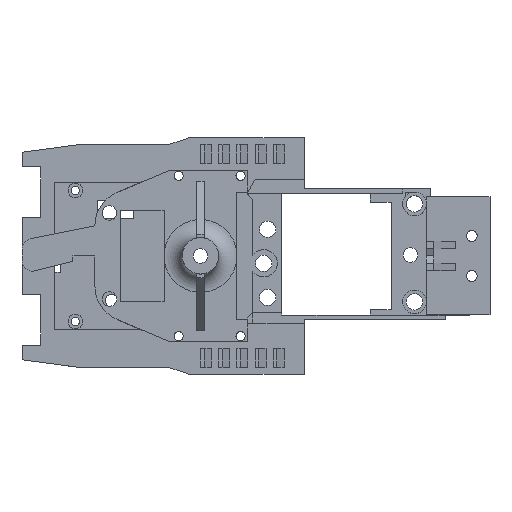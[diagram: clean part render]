
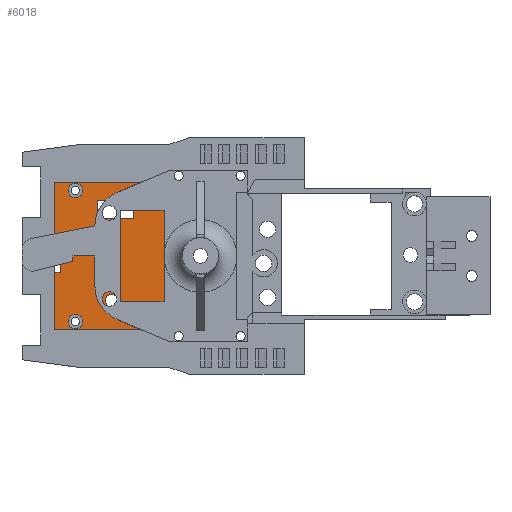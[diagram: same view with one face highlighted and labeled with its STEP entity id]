
A CAD part, top view. The second image highlights one B-rep face of the part: STEP entity #6018.
In plain terms, the highlighted planar face has unit normal (0, 0, 1).
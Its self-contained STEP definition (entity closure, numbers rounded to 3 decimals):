
#61=FACE_BOUND('',#839,.T.);
#62=FACE_BOUND('',#840,.T.);
#63=FACE_BOUND('',#841,.T.);
#64=FACE_BOUND('',#842,.T.);
#250=PLANE('',#6454);
#510=FACE_OUTER_BOUND('',#838,.T.);
#838=EDGE_LOOP('',(#4816,#4817,#4818,#4819,#4820,#4821,#4822,#4823,#4824,
#4825,#4826,#4827));
#839=EDGE_LOOP('',(#4828,#4829,#4830,#4831));
#840=EDGE_LOOP('',(#4832,#4833));
#841=EDGE_LOOP('',(#4834,#4835));
#842=EDGE_LOOP('',(#4836));
#1098=CIRCLE('',#6443,2.5);
#1099=CIRCLE('',#6446,2.5);
#1102=CIRCLE('',#6455,2.);
#1103=CIRCLE('',#6456,2.);
#1104=CIRCLE('',#6457,2.);
#1105=CIRCLE('',#6458,2.);
#1106=CIRCLE('',#6459,1.75);
#1595=LINE('',#9368,#2283);
#1596=LINE('',#9370,#2284);
#1597=LINE('',#9372,#2285);
#1598=LINE('',#9374,#2286);
#1599=LINE('',#9376,#2287);
#1600=LINE('',#9378,#2288);
#1601=LINE('',#9379,#2289);
#1602=LINE('',#9381,#2290);
#1603=LINE('',#9383,#2291);
#1604=LINE('',#9384,#2292);
#1605=LINE('',#9387,#2293);
#1606=LINE('',#9389,#2294);
#1607=LINE('',#9391,#2295);
#1608=LINE('',#9392,#2296);
#2283=VECTOR('',#7565,10.);
#2284=VECTOR('',#7566,10.);
#2285=VECTOR('',#7567,10.);
#2286=VECTOR('',#7568,10.);
#2287=VECTOR('',#7569,10.);
#2288=VECTOR('',#7570,10.);
#2289=VECTOR('',#7571,10.);
#2290=VECTOR('',#7572,10.);
#2291=VECTOR('',#7573,10.);
#2292=VECTOR('',#7574,10.);
#2293=VECTOR('',#7575,10.);
#2294=VECTOR('',#7576,10.);
#2295=VECTOR('',#7577,10.);
#2296=VECTOR('',#7578,10.);
#2917=VERTEX_POINT('',#9337);
#2918=VERTEX_POINT('',#9339);
#2919=VERTEX_POINT('',#9345);
#2920=VERTEX_POINT('',#9347);
#2925=VERTEX_POINT('',#9367);
#2926=VERTEX_POINT('',#9369);
#2927=VERTEX_POINT('',#9371);
#2928=VERTEX_POINT('',#9373);
#2929=VERTEX_POINT('',#9375);
#2930=VERTEX_POINT('',#9377);
#2931=VERTEX_POINT('',#9380);
#2932=VERTEX_POINT('',#9382);
#2933=VERTEX_POINT('',#9385);
#2934=VERTEX_POINT('',#9386);
#2935=VERTEX_POINT('',#9388);
#2936=VERTEX_POINT('',#9390);
#2937=VERTEX_POINT('',#9393);
#2938=VERTEX_POINT('',#9394);
#2939=VERTEX_POINT('',#9397);
#2940=VERTEX_POINT('',#9398);
#2941=VERTEX_POINT('',#9401);
#3624=EDGE_CURVE('',#2918,#2917,#1098,.T.);
#3628=EDGE_CURVE('',#2920,#2919,#1099,.T.);
#3638=EDGE_CURVE('',#2917,#2925,#1595,.T.);
#3639=EDGE_CURVE('',#2925,#2926,#1596,.T.);
#3640=EDGE_CURVE('',#2926,#2927,#1597,.T.);
#3641=EDGE_CURVE('',#2927,#2928,#1598,.T.);
#3642=EDGE_CURVE('',#2928,#2929,#1599,.T.);
#3643=EDGE_CURVE('',#2929,#2930,#1600,.T.);
#3644=EDGE_CURVE('',#2930,#2920,#1601,.T.);
#3645=EDGE_CURVE('',#2919,#2931,#1602,.T.);
#3646=EDGE_CURVE('',#2932,#2931,#1603,.T.);
#3647=EDGE_CURVE('',#2932,#2918,#1604,.T.);
#3648=EDGE_CURVE('',#2933,#2934,#1605,.T.);
#3649=EDGE_CURVE('',#2934,#2935,#1606,.T.);
#3650=EDGE_CURVE('',#2935,#2936,#1607,.T.);
#3651=EDGE_CURVE('',#2936,#2933,#1608,.T.);
#3652=EDGE_CURVE('',#2937,#2938,#1102,.T.);
#3653=EDGE_CURVE('',#2938,#2937,#1103,.T.);
#3654=EDGE_CURVE('',#2939,#2940,#1104,.T.);
#3655=EDGE_CURVE('',#2940,#2939,#1105,.T.);
#3656=EDGE_CURVE('',#2941,#2941,#1106,.T.);
#4816=ORIENTED_EDGE('',*,*,#3624,.T.);
#4817=ORIENTED_EDGE('',*,*,#3638,.T.);
#4818=ORIENTED_EDGE('',*,*,#3639,.T.);
#4819=ORIENTED_EDGE('',*,*,#3640,.T.);
#4820=ORIENTED_EDGE('',*,*,#3641,.T.);
#4821=ORIENTED_EDGE('',*,*,#3642,.T.);
#4822=ORIENTED_EDGE('',*,*,#3643,.T.);
#4823=ORIENTED_EDGE('',*,*,#3644,.T.);
#4824=ORIENTED_EDGE('',*,*,#3628,.T.);
#4825=ORIENTED_EDGE('',*,*,#3645,.T.);
#4826=ORIENTED_EDGE('',*,*,#3646,.F.);
#4827=ORIENTED_EDGE('',*,*,#3647,.T.);
#4828=ORIENTED_EDGE('',*,*,#3648,.T.);
#4829=ORIENTED_EDGE('',*,*,#3649,.T.);
#4830=ORIENTED_EDGE('',*,*,#3650,.T.);
#4831=ORIENTED_EDGE('',*,*,#3651,.T.);
#4832=ORIENTED_EDGE('',*,*,#3652,.T.);
#4833=ORIENTED_EDGE('',*,*,#3653,.T.);
#4834=ORIENTED_EDGE('',*,*,#3654,.T.);
#4835=ORIENTED_EDGE('',*,*,#3655,.T.);
#4836=ORIENTED_EDGE('',*,*,#3656,.F.);
#6018=ADVANCED_FACE('',(#510,#61,#62,#63,#64),#250,.T.);
#6443=AXIS2_PLACEMENT_3D('',#9340,#7532,#7533);
#6446=AXIS2_PLACEMENT_3D('',#9348,#7541,#7542);
#6454=AXIS2_PLACEMENT_3D('',#9366,#7563,#7564);
#6455=AXIS2_PLACEMENT_3D('',#9395,#7579,#7580);
#6456=AXIS2_PLACEMENT_3D('',#9396,#7581,#7582);
#6457=AXIS2_PLACEMENT_3D('',#9399,#7583,#7584);
#6458=AXIS2_PLACEMENT_3D('',#9400,#7585,#7586);
#6459=AXIS2_PLACEMENT_3D('',#9402,#7587,#7588);
#7532=DIRECTION('center_axis',(0.,0.,-1.));
#7533=DIRECTION('ref_axis',(-1.,0.,0.));
#7541=DIRECTION('center_axis',(0.,0.,-1.));
#7542=DIRECTION('ref_axis',(-1.,0.,0.));
#7563=DIRECTION('center_axis',(0.,0.,1.));
#7564=DIRECTION('ref_axis',(1.,0.,0.));
#7565=DIRECTION('',(-1.,0.,0.));
#7566=DIRECTION('',(0.,-1.,0.));
#7567=DIRECTION('',(1.,0.,0.));
#7568=DIRECTION('',(0.,-1.,0.));
#7569=DIRECTION('',(-1.,0.,0.));
#7570=DIRECTION('',(0.,-1.,0.));
#7571=DIRECTION('',(1.,0.,0.));
#7572=DIRECTION('',(1.,0.,0.));
#7573=DIRECTION('',(0.,-1.,0.));
#7574=DIRECTION('',(-1.,0.,0.));
#7575=DIRECTION('',(-1.,0.,0.));
#7576=DIRECTION('',(0.,1.,0.));
#7577=DIRECTION('',(1.,0.,0.));
#7578=DIRECTION('',(0.,-1.,0.));
#7579=DIRECTION('center_axis',(0.,0.,-1.));
#7580=DIRECTION('ref_axis',(1.,0.,0.));
#7581=DIRECTION('center_axis',(0.,0.,-1.));
#7582=DIRECTION('ref_axis',(1.,0.,0.));
#7583=DIRECTION('center_axis',(0.,0.,-1.));
#7584=DIRECTION('ref_axis',(1.,0.,0.));
#7585=DIRECTION('center_axis',(0.,0.,-1.));
#7586=DIRECTION('ref_axis',(1.,0.,0.));
#7587=DIRECTION('center_axis',(0.,0.,1.));
#7588=DIRECTION('ref_axis',(-1.,0.,0.));
#9337=CARTESIAN_POINT('',(-3.535,20.25,1.));
#9339=CARTESIAN_POINT('',(0.035,20.25,1.));
#9340=CARTESIAN_POINT('Origin',(-1.75,22.,1.));
#9345=CARTESIAN_POINT('',(0.035,-20.25,1.));
#9347=CARTESIAN_POINT('',(-3.535,-20.25,1.));
#9348=CARTESIAN_POINT('Origin',(-1.75,-22.,1.));
#9366=CARTESIAN_POINT('Origin',(1.031,12.764,1.));
#9367=CARTESIAN_POINT('',(-35.75,20.25,1.));
#9368=CARTESIAN_POINT('',(1.465,20.25,1.));
#9369=CARTESIAN_POINT('',(-35.75,4.5,1.));
#9370=CARTESIAN_POINT('',(-35.75,11.257,1.));
#9371=CARTESIAN_POINT('',(-34.25,4.5,1.));
#9372=CARTESIAN_POINT('',(-18.11,4.5,1.));
#9373=CARTESIAN_POINT('',(-34.25,-4.5,1.));
#9374=CARTESIAN_POINT('',(-34.25,6.382,1.));
#9375=CARTESIAN_POINT('',(-35.75,-4.5,1.));
#9376=CARTESIAN_POINT('',(-18.11,-4.5,1.));
#9377=CARTESIAN_POINT('',(-35.75,-20.25,1.));
#9378=CARTESIAN_POINT('',(-35.75,1.507,1.));
#9379=CARTESIAN_POINT('',(1.465,-20.25,1.));
#9380=CARTESIAN_POINT('',(1.9,-20.25,1.));
#9381=CARTESIAN_POINT('',(1.465,-20.25,1.));
#9382=CARTESIAN_POINT('',(1.9,20.25,1.));
#9383=CARTESIAN_POINT('',(1.9,-11.312,1.));
#9384=CARTESIAN_POINT('',(1.465,20.25,1.));
#9385=CARTESIAN_POINT('',(-14.1,10.25,1.));
#9386=CARTESIAN_POINT('',(-24.1,10.25,1.));
#9387=CARTESIAN_POINT('',(-6.535,10.25,1.));
#9388=CARTESIAN_POINT('',(-24.1,15.25,1.));
#9389=CARTESIAN_POINT('',(-24.1,11.507,1.));
#9390=CARTESIAN_POINT('',(-14.1,15.25,1.));
#9391=CARTESIAN_POINT('',(-11.535,15.25,1.));
#9392=CARTESIAN_POINT('',(-14.1,14.007,1.));
#9393=CARTESIAN_POINT('',(-28.1,18.,1.));
#9394=CARTESIAN_POINT('',(-32.1,18.,1.));
#9395=CARTESIAN_POINT('Origin',(-30.1,18.,1.));
#9396=CARTESIAN_POINT('Origin',(-30.1,18.,1.));
#9397=CARTESIAN_POINT('',(-28.1,-18.,1.));
#9398=CARTESIAN_POINT('',(-32.1,-18.,1.));
#9399=CARTESIAN_POINT('Origin',(-30.1,-18.,1.));
#9400=CARTESIAN_POINT('Origin',(-30.1,-18.,1.));
#9401=CARTESIAN_POINT('',(-18.35,-12.25,1.));
#9402=CARTESIAN_POINT('Origin',(-20.1,-12.25,1.));
